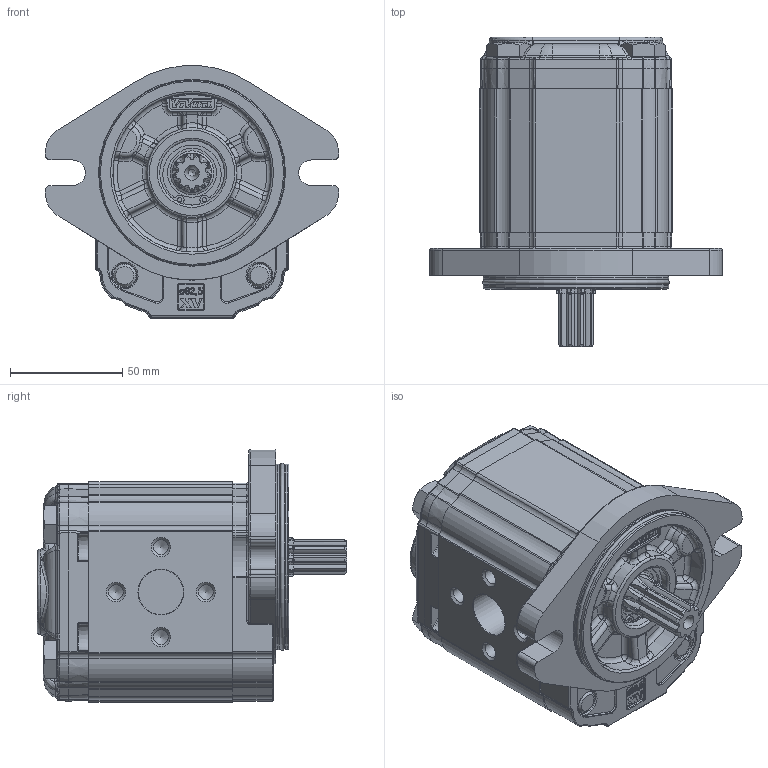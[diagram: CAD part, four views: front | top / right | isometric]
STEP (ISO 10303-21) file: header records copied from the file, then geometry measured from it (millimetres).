
FILE_DESCRIPTION(/* description */ ('Unknown'),/* implementation_level */ '2;1');
FILE_NAME(/* name */ 'X2R4931IPPF',/* time_stamp */ '2021-04-26T12:44:30+02:00',/* author */ ('Unknown'),/* organization */ ('Unknown'),/* preprocessor_version */ 'ST-DEVELOPER v16.7',/* originating_system */ 'Solid Edge',/* authorisation */ 'Unknown');
FILE_SCHEMA (('AUTOMOTIVE_DESIGN {1 0 10303 214 3 1 1}'));
Products named in the file (5): X2R4931IPPF; X2R31; 2I; X2PPH64; XR219-F
Assembly tree (4 placements, depth 2):
  X2R4931IPPF
    X2R31
    2I
    X2PPH64
    XR219-F
Bounding box: 130.38 x 137.7 x 112.3 mm (x, y, z)
Volume: 775395.6 mm3; surface area: 119341.6 mm2
Topology: 4 solids, 5 shells, 2134 faces, 5264 edges, 3209 vertices
Faces by surface type: cylinder 636, plane 574, bspline 513, torus 257, cone 116, sphere 38
Full cylindrical faces by diameter (mm): 2 x2, 6.647 x8, 10 x4, 10.5 x4, 11 x2, 11.5 x4, 16 x4, 17.42 x1, 17.48 x2, 18.724 x1, 20 x2, 20.595 x1, 21.741 x1, 25.834 x1, 28.56 x1, 28.57 x1, 28.8 x1, 30.4 x1, 79.6 x2, 82.5 x2
Entity records: 88275 total; most frequent: CARTESIAN_POINT 28287, ORIENTED_EDGE 10122, DIRECTION 8540, EDGE_CURVE 5061, AXIS2_PLACEMENT_3D 3258, VERTEX_POINT 3145, FACE_BOUND 2352, EDGE_LOOP 2342
